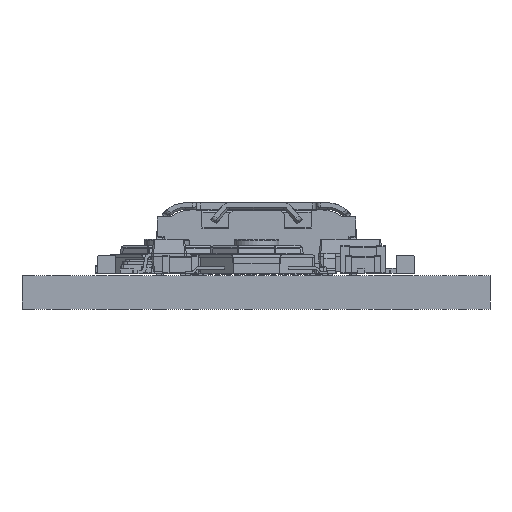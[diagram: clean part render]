
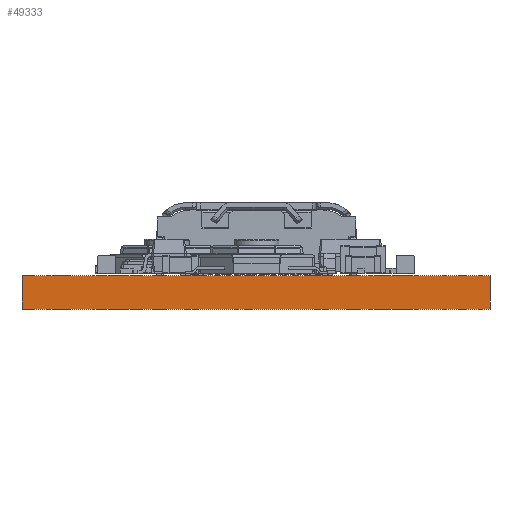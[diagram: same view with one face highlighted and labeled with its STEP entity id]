
A CAD part, front view. The second image highlights one B-rep face of the part: STEP entity #49333.
In plain terms, the highlighted planar face has unit normal (0, -1, 0).
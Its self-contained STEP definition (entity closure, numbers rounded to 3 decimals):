
#49333 = ADVANCED_FACE('',(#49334),#49368,.T.);
#49334 = FACE_BOUND('',#49335,.T.);
#49335 = EDGE_LOOP('',(#49336,#49346,#49354,#49362));
#49336 = ORIENTED_EDGE('',*,*,#49337,.T.);
#49337 = EDGE_CURVE('',#49338,#49340,#49342,.T.);
#49338 = VERTEX_POINT('',#49339);
#49339 = CARTESIAN_POINT('',(142.5,-100.5,0.));
#49340 = VERTEX_POINT('',#49341);
#49341 = CARTESIAN_POINT('',(142.5,-100.5,1.51));
#49342 = LINE('',#49343,#49344);
#49343 = CARTESIAN_POINT('',(142.5,-100.5,0.));
#49344 = VECTOR('',#49345,1.);
#49345 = DIRECTION('',(0.,0.,1.));
#49346 = ORIENTED_EDGE('',*,*,#49347,.T.);
#49347 = EDGE_CURVE('',#49340,#49348,#49350,.T.);
#49348 = VERTEX_POINT('',#49349);
#49349 = CARTESIAN_POINT('',(121.5,-100.5,1.51));
#49350 = LINE('',#49351,#49352);
#49351 = CARTESIAN_POINT('',(142.5,-100.5,1.51));
#49352 = VECTOR('',#49353,1.);
#49353 = DIRECTION('',(-1.,0.,0.));
#49354 = ORIENTED_EDGE('',*,*,#49355,.F.);
#49355 = EDGE_CURVE('',#49356,#49348,#49358,.T.);
#49356 = VERTEX_POINT('',#49357);
#49357 = CARTESIAN_POINT('',(121.5,-100.5,0.));
#49358 = LINE('',#49359,#49360);
#49359 = CARTESIAN_POINT('',(121.5,-100.5,0.));
#49360 = VECTOR('',#49361,1.);
#49361 = DIRECTION('',(0.,0.,1.));
#49362 = ORIENTED_EDGE('',*,*,#49363,.F.);
#49363 = EDGE_CURVE('',#49338,#49356,#49364,.T.);
#49364 = LINE('',#49365,#49366);
#49365 = CARTESIAN_POINT('',(142.5,-100.5,0.));
#49366 = VECTOR('',#49367,1.);
#49367 = DIRECTION('',(-1.,0.,0.));
#49368 = PLANE('',#49369);
#49369 = AXIS2_PLACEMENT_3D('',#49370,#49371,#49372);
#49370 = CARTESIAN_POINT('',(142.5,-100.5,0.));
#49371 = DIRECTION('',(0.,-1.,0.));
#49372 = DIRECTION('',(-1.,0.,0.));
